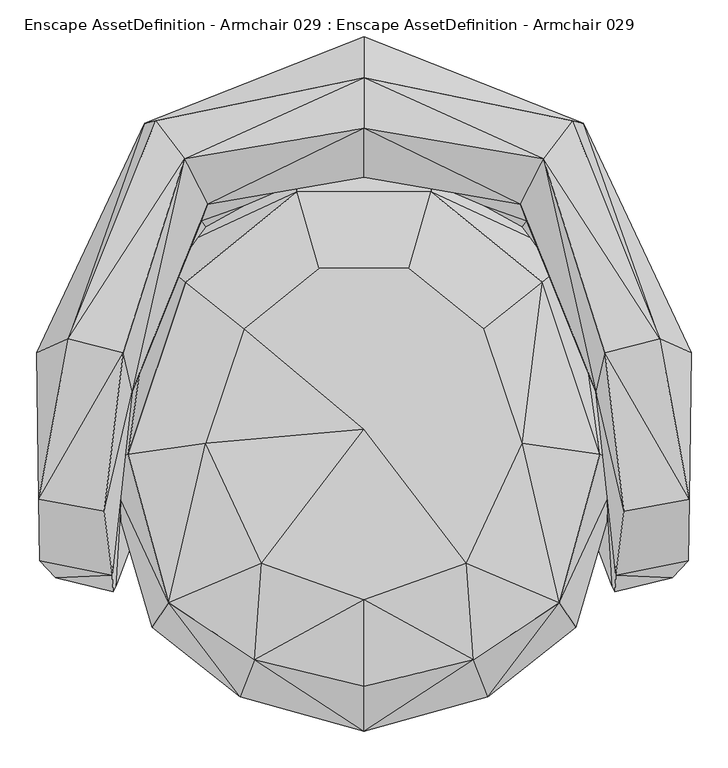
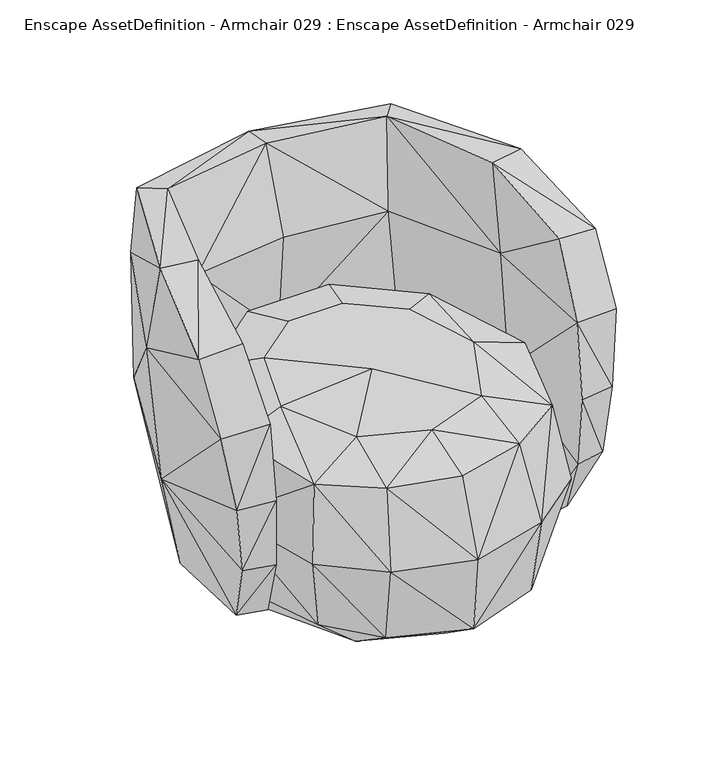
"""IFC4 building model written with IfcOpenShell, lengths in millimetres: geographic element geometry, Enscape AssetDefinition - Armchair 029 : Enscape AssetDefinition - Armchair 029."""

import ifcopenshell
import ifcopenshell.guid

model = None  # the IFC model being written
_history = None  # IfcOwnerHistory: only IFC2X3 demands one
_inside = {}  # id of a spatial element -> (the spatial element, [elements in it])
_under = {}  # id of a project, library or spatial element -> (it, [spatial elements below it])
_declared = {}  # id of a project -> (the project, [libraries it declares])
_typed = {}  # id of a type object -> (the type object, [elements of that type])
_made_of = {}  # id of a material, layer set ... -> (it, [elements and type objects made of it])


def new_model(schema):
    """Start an empty IFC model of exactly this schema.

    Asked for "IFC4X3", IfcOpenShell would pick the latest addendum, in which some entities
    have other attributes; the version numbers below select the first issue.
    IFC2X3 requires an IfcOwnerHistory on every rooted entity: one is made here for all.
    """
    global model, _history
    if schema == "IFC4X3":
        model = ifcopenshell.file(schema_version=(4, 3, 0, 0))
    else:
        model = ifcopenshell.file(schema=schema)
    _inside.clear()
    _under.clear()
    _declared.clear()
    _typed.clear()
    _made_of.clear()
    _history = None
    if model.schema == "IFC2X3":
        org = make("IfcOrganization", Name="unknown")
        user = make(
            "IfcPersonAndOrganization",
            ThePerson=make("IfcPerson", FamilyName="unknown"),
            TheOrganization=org,
        )
        app = make(
            "IfcApplication",
            ApplicationDeveloper=org,
            Version="unknown",
            ApplicationFullName="unknown",
            ApplicationIdentifier="unknown",
        )
        _history = make(
            "IfcOwnerHistory",
            OwningUser=user,
            OwningApplication=app,
            ChangeAction="ADDED",
            CreationDate=0,
        )
    return model


def make(cls, **values):
    """One entity of the class cls with the attributes given. An attribute that is None is left unset."""
    return model.create_entity(
        cls, **{name: value for name, value in values.items() if value is not None}
    )


def rooted(cls, **values):
    """An entity with a GlobalId (a new one), such as an element, a storey or a relation."""
    return make(cls, GlobalId=ifcopenshell.guid.new(), OwnerHistory=_history, **values)


def si_unit(unit_type, name, prefix=None):
    """IfcSIUnit, for example si_unit("LENGTHUNIT", "METRE", prefix="MILLI")."""
    return make("IfcSIUnit", UnitType=unit_type, Prefix=prefix, Name=name)


def assignment(units):
    """IfcUnitAssignment: the units of a project."""
    return None if units is None else make("IfcUnitAssignment", Units=units)


def point(xyz):
    """IfcCartesianPoint."""
    return None if xyz is None else make("IfcCartesianPoint", Coordinates=xyz)


def direction(xyz):
    """IfcDirection."""
    return None if xyz is None else make("IfcDirection", DirectionRatios=xyz)


def frame(location, z_axis=None, x_axis=None):
    """IfcAxis2Placement3D, a coordinate frame: its origin and axes. An axis left out is left unset."""
    return make(
        "IfcAxis2Placement3D",
        Location=point(location),
        Axis=direction(z_axis),
        RefDirection=direction(x_axis),
    )


def origin():
    """The frame at (0, 0, 0) with its axes left unset."""
    return frame((0.0, 0.0, 0.0))


def place(relative_to, where):
    """IfcLocalPlacement: puts the frame where relative to a parent placement (None: the world)."""
    return make(
        "IfcLocalPlacement", PlacementRelTo=relative_to, RelativePlacement=where
    )


def context(
    kind, dimensions, precision=None, world=None, true_north=None, identifier=None
):
    """IfcGeometricRepresentationContext, for example the 3D "Model" context."""
    return make(
        "IfcGeometricRepresentationContext",
        ContextIdentifier=identifier,
        ContextType=kind,
        CoordinateSpaceDimension=dimensions,
        Precision=precision,
        WorldCoordinateSystem=world,
        TrueNorth=true_north,
    )


def project(units=None, contexts=None):
    """IfcProject with its units and contexts."""
    return rooted(
        "IfcProject",
        Name="project",
        RepresentationContexts=contexts,
        UnitsInContext=assignment(units),
    )


def spatial(cls, under=None, at=None, **own):
    """A site, building, storey or space (cls), placed at a placement, below another one or the project."""
    s = rooted(cls, ObjectPlacement=at, **own)
    if under is not None:
        _under.setdefault(under.id(), (under, []))[1].append(s)
    return s


def point_list(points):
    """IfcCartesianPointList2D or 3D."""
    cls = (
        "IfcCartesianPointList2D" if len(points[0]) == 2 else "IfcCartesianPointList3D"
    )
    return make(cls, CoordList=points)


def triangles(points, corners, closed=None, point_numbers=None):
    """IfcTriangulatedFaceSet: each triangle names its three corners, points numbered from 1."""
    return make(
        "IfcTriangulatedFaceSet",
        Coordinates=point_list(points),
        Closed=closed,
        CoordIndex=corners,
        PnIndex=point_numbers,
    )


def shape(context_of_items, identifier, shape_type, items):
    """IfcShapeRepresentation: the items that make up one representation, for example the "Body"."""
    return make(
        "IfcShapeRepresentation",
        ContextOfItems=context_of_items,
        RepresentationIdentifier=identifier,
        RepresentationType=shape_type,
        Items=items,
    )


def source(mapping_origin, context_of_items, identifier, shape_type, items):
    """IfcRepresentationMap: a shape defined once, which mapped items show again and again."""
    return make(
        "IfcRepresentationMap",
        MappingOrigin=mapping_origin,
        MappedRepresentation=shape(context_of_items, identifier, shape_type, items),
    )


def transform(
    local_origin,
    x_axis=None,
    y_axis=None,
    z_axis=None,
    scale=None,
    scale2=None,
    scale3=None,
    uniform=True,
):
    """IfcCartesianTransformationOperator3D, or its non-uniform kind. x_axis, y_axis, z_axis: its Axis1, 2, 3."""
    if uniform:
        return make(
            "IfcCartesianTransformationOperator3D",
            Axis1=direction(x_axis),
            Axis2=direction(y_axis),
            LocalOrigin=point(local_origin),
            Scale=scale,
            Axis3=direction(z_axis),
        )
    return make(
        "IfcCartesianTransformationOperator3DnonUniform",
        Axis1=direction(x_axis),
        Axis2=direction(y_axis),
        LocalOrigin=point(local_origin),
        Scale=scale,
        Axis3=direction(z_axis),
        Scale2=scale2,
        Scale3=scale3,
    )


def mapped(mapping_source, mapping_target):
    """IfcMappedItem: shows the shape of a source again, moved by a transform."""
    return make(
        "IfcMappedItem", MappingSource=mapping_source, MappingTarget=mapping_target
    )


def made_of(thing, what):
    """Note that an element or type object is made of a material, layer set ...; save() writes the relation."""
    if what is not None:
        _made_of.setdefault(what.id(), (what, []))[1].append(thing)
    return thing


def element(
    cls,
    number,
    at=None,
    inside=None,
    cuts=None,
    type_object=None,
    material=None,
    context=None,
    identifier="Body",
    shape_type=None,
    held_by="IfcProductDefinitionShape",
    body=None,
    shapes=None,
    **own,
):
    """One element of the class cls, such as IfcWall. Its Tag is "e" and its number.

    at: its placement. inside: the storey or other place that contains it. cuts: it is an
    opening in that element (IfcRelVoidsElement). A single representation is given by context,
    identifier, shape_type and body (its items); several are given by shapes. held_by: the class
    of the entity that holds the representations. save() writes the other relations.
    """
    e = rooted(cls, Tag="e%d" % number, ObjectPlacement=at, **own)
    if body is not None:
        shapes = [shape(context, identifier, shape_type, body)]
    if shapes is not None:
        e.Representation = make(held_by, Representations=shapes)
    if inside is not None:
        _inside.setdefault(inside.id(), (inside, []))[1].append(e)
    if cuts is not None:
        rooted(
            "IfcRelVoidsElement", RelatingBuildingElement=cuts, RelatedOpeningElement=e
        )
    if type_object is not None:
        _typed.setdefault(type_object.id(), (type_object, []))[1].append(e)
    return made_of(e, material)


def aggregate(whole, parts):
    """IfcRelAggregates: a whole, such as a stair, and the parts it consists of."""
    return rooted("IfcRelAggregates", RelatingObject=whole, RelatedObjects=parts)


def save(model, path):
    """Write the relations noted so far, then the file.

    IfcRelAggregates (storeys below a building ...), IfcRelContainedInSpatialStructure (elements
    in a storey), IfcRelDefinesByType, IfcRelAssociatesMaterial and IfcRelDeclares: one each for
    every whole, place, type object, material and project.
    """
    for whole, parts in _under.values():
        aggregate(whole, parts)
    for where, things in _inside.values():
        rooted(
            "IfcRelContainedInSpatialStructure",
            RelatedElements=things,
            RelatingStructure=where,
        )
    for kind, things in _typed.values():
        rooted("IfcRelDefinesByType", RelatedObjects=things, RelatingType=kind)
    for what, things in _made_of.values():
        rooted("IfcRelAssociatesMaterial", RelatedObjects=things, RelatingMaterial=what)
    for by, libraries in _declared.values():
        rooted("IfcRelDeclares", RelatingContext=by, RelatedDefinitions=libraries)
    model.write(path)


def enscape_assetdefinition_armchair_029_enscape_assetdefinition_e9313fe8(model_context):
    return source(origin(), model_context, "Body", "Tessellation", [
        triangles([(-111.1503921, 255.2187967, 79.2519576), (-103.1659957, 172.1828223, 0.0), (-106.0501765, 280.07075, 259.6799706), (106.0501765, 280.07075, 259.6799706), (103.1659957, 172.1828223, 0.0), (-221.9750955, 69.893172, 0.0), (-275.7942668, 135.5456872, 79.2777009), (-264.5742213, -106.1083761, 0.0), (0.0, -94.1776636, 0.0), (-160.9683905, -305.8113118, 0.0), (-351.6875087, -136.5193832, 261.0577027), (-319.2999507, -135.9127796, 79.1624191), (-252.4521415, -319.5260633, 78.9374601), (0.0, -479.939346, 78.7662224), (-161.2448453, -422.2342927, 78.8177), (-287.2493271, -358.3456415, 257.0532051), (-148.1400765, -401.9912333, 413.8469776), (-167.5660983, -452.0062037, 253.7347667), (-264.8898634, -324.9474621, 417.485491), (-319.511493, -124.0178752, 422.9359941), (-282.5150775, 142.892141, 259.3363506), (-162.1939153, 45.8537918, 453.1892346), (-214.2704967, -108.8403587, 451.2406981), (0.0, -89.8720942, 452.663213), (-138.531715, -271.3980417, 451.605574), (0.0, -437.6087903, 412.3550629), (0.0, -320.7997138, 449.5999188), (138.531715, -271.3980417, 451.605574), (148.1400765, -401.9912333, 413.8469776), (0.0, -498.5024208, 252.1208572), (264.8898634, -324.9474621, 417.485491), (351.6875087, -136.5193832, 261.0577027), (161.2448453, -422.2342927, 78.8177), (167.5660983, -452.0062037, 253.7347667), (287.2493271, -358.3456415, 257.0532051), (160.9683905, -305.8113118, 0.0), (319.2999507, -135.9127796, 79.1624191), (264.5742213, -106.1083761, 0.0), (0.0, -367.6563014, 0.0), (252.4521415, -319.5260633, 78.9374601), (275.7942668, 135.5456872, 79.2777009), (221.9750955, 69.893172, 0.0), (111.1503921, 255.2187967, 79.2519576), (90.6555312, 231.3137333, 424.8420187), (-90.6555312, 231.3137333, 424.8420187), (-241.8689394, 109.0183002, 424.3283146), (60.8108321, 127.9071091, 453.5194107), (-60.8108321, 127.9071091, 453.5194107), (214.2704967, -108.8403587, 453.1858555), (241.8689394, 109.0183002, 424.3283146), (162.1939153, 45.8537918, 453.1892346), (319.511493, -124.0178752, 422.9359941), (282.5150775, 142.892141, 259.3363506), (-351.9225597, -200.9642959, 702.1203701), (-440.8197862, -185.2002872, 686.8319864), (-439.2641035, -267.7718096, 548.5117956), (-431.5650822, -25.5424748, 305.1520861), (-296.771493, 324.3498241, 579.6167284), (-301.7866665, 305.1767212, 297.9914221), (-442.9753595, 13.2066089, 595.3874591), (-341.0404841, -287.5604636, 561.46998), (-339.781404, -309.7050058, 395.0991757), (-417.3254354, -290.7703149, 387.660967), (-400.7936683, -283.581673, 236.7497024), (-335.814931, -302.104525, 239.2399392), (-301.0491207, -210.062287, 65.0224028), (-368.0379278, -203.5765092, 71.669349), (-308.4402938, -12.2541644, 61.5013832), (-270.7074589, -27.7081334, 108.6265908), (-373.351884, 1.1483034, 71.5641456), (-203.716399, 171.4934021, 68.8590237), (0.0, 296.4133389, 70.1237312), (-246.0256805, 225.7177086, 70.7135435), (0.0, 402.5105693, 295.1699192), (246.0256805, 225.7177086, 70.7124262), (0.0, 227.5610373, 74.1528639), (442.9753595, 13.2066089, 595.3874591), (301.7866665, 305.1767212, 297.9914221), (431.5650822, -25.5424748, 305.1520861), (368.0379278, -203.5765092, 71.669349), (373.351884, 1.1483034, 71.5641456), (203.716399, 171.4934021, 68.8590237), (181.471118, 138.5720105, 119.9361476), (308.4402938, -12.2541644, 61.5013832), (301.0491207, -210.062287, 65.0224028), (400.7936683, -283.581673, 236.7497024), (320.9709606, -56.8734725, 323.8495276), (270.7074589, -27.7081334, 108.6265908), (335.814931, -302.104525, 239.2399392), (339.781404, -309.7050058, 395.0991757), (417.3254354, -290.7703149, 387.660967), (314.047546, -39.0669377, 583.4791017), (341.0404841, -287.5604636, 561.46998), (351.9225597, -200.9642959, 702.1203701), (439.2641035, -267.7718096, 548.5117956), (440.8197862, -185.2002872, 686.8319864), (400.3717463, 32.0439312, 755.7246563), (282.013691, 327.2015396, 723.476988), (326.2659136, 13.6878659, 760.3514088), (243.198582, 275.9363912, 738.8347715), (211.7556248, 214.3891305, 564.9160269), (0.0, 385.5489956, 722.7483988), (296.771493, 324.3498241, 579.6167284), (0.0, 440.7884654, 573.4286977), (-243.198582, 275.9363912, 738.8347715), (-282.013691, 327.2015396, 723.476988), (-400.3717463, 32.0428116, 755.7246563), (-211.7556248, 214.3891305, 564.9160269), (-326.2659136, 13.6878659, 760.3514088), (0.0, 269.807641, 325.8462081), (-314.047546, -39.0669377, 583.4791017), (-219.9538163, 191.9860285, 323.0403474), (-320.9709606, -56.8734725, 323.8495276), (0.0, 187.750949, 127.892566), (-181.471118, 138.5720105, 119.9361476), (219.9538163, 191.9860285, 323.0403474), (0.0, 317.4376007, 735.4714594), (0.0, 251.1471521, 555.2863458)], [[101, 118, 110], [117, 118, 101], [92, 101, 116], [110, 116, 101], [83, 116, 110], [83, 114, 76], [110, 114, 83], [76, 114, 115], [115, 114, 110], [113, 69, 115], [110, 112, 115], [115, 112, 113], [111, 113, 112], [112, 108, 111], [108, 112, 110], [110, 118, 108], [108, 118, 117], [105, 109, 111], [111, 108, 105], [107, 109, 105], [117, 105, 108], [105, 106, 107], [107, 106, 58], [102, 106, 105], [105, 117, 102], [102, 104, 58], [58, 106, 102], [103, 104, 102], [102, 98, 103], [100, 101, 92], [102, 117, 100], [100, 98, 102], [101, 100, 117], [92, 99, 100], [97, 98, 100], [100, 99, 97], [103, 98, 97], [97, 77, 103], [96, 97, 99], [96, 77, 97], [99, 94, 96], [92, 94, 99], [77, 96, 95], [95, 96, 94], [79, 77, 95], [95, 91, 79], [91, 95, 93], [94, 93, 95], [94, 92, 93], [93, 90, 91], [86, 91, 90], [86, 79, 91], [90, 89, 86], [116, 87, 92], [93, 92, 87], [87, 90, 93], [87, 89, 90], [87, 116, 83], [83, 88, 87], [85, 89, 87], [87, 88, 85], [80, 86, 89], [89, 85, 80], [79, 86, 80], [84, 88, 83], [88, 84, 85], [80, 85, 84], [76, 82, 83], [83, 82, 84], [81, 84, 82], [84, 81, 80], [80, 81, 79], [78, 79, 81], [78, 103, 77], [77, 79, 78], [82, 75, 81], [81, 75, 78], [72, 75, 82], [82, 76, 72], [74, 78, 75], [75, 72, 74], [103, 78, 74], [74, 104, 103], [58, 104, 74], [74, 59, 58], [74, 72, 73], [73, 59, 74], [115, 71, 76], [72, 76, 71], [71, 73, 72], [70, 73, 71], [59, 73, 70], [70, 57, 59], [71, 68, 70], [115, 69, 68], [68, 71, 115], [69, 66, 68], [66, 69, 113], [67, 70, 68], [68, 66, 67], [57, 70, 67], [67, 66, 65], [113, 65, 66], [65, 64, 67], [67, 64, 57], [64, 65, 62], [113, 62, 65], [62, 63, 64], [64, 63, 57], [63, 62, 61], [113, 111, 61], [61, 62, 113], [54, 61, 111], [111, 109, 54], [61, 56, 63], [56, 61, 54], [57, 63, 56], [59, 57, 60], [60, 58, 59], [58, 60, 107], [56, 60, 57], [60, 56, 55], [54, 55, 56], [55, 54, 109], [109, 107, 55], [55, 107, 60], [52, 32, 53], [53, 50, 52], [49, 52, 50], [50, 51, 49], [51, 24, 49], [46, 22, 48], [24, 48, 22], [47, 51, 50], [24, 51, 47], [47, 48, 24], [45, 48, 47], [48, 45, 46], [21, 46, 45], [45, 3, 21], [50, 44, 47], [47, 44, 45], [44, 50, 53], [3, 45, 44], [53, 4, 44], [44, 4, 3], [43, 4, 53], [53, 41, 43], [42, 5, 43], [43, 41, 42], [9, 5, 42], [42, 38, 9], [38, 42, 41], [37, 41, 53], [53, 32, 37], [41, 37, 38], [40, 37, 32], [36, 39, 9], [38, 36, 9], [36, 38, 37], [37, 40, 36], [14, 39, 36], [36, 33, 14], [40, 33, 36], [33, 40, 35], [32, 35, 40], [35, 34, 33], [14, 33, 34], [34, 30, 14], [34, 35, 31], [31, 52, 49], [31, 35, 32], [32, 52, 31], [49, 28, 31], [49, 24, 28], [29, 31, 28], [31, 29, 34], [30, 34, 29], [29, 26, 30], [27, 26, 29], [29, 28, 27], [27, 28, 24], [17, 26, 27], [30, 26, 17], [24, 25, 27], [27, 25, 17], [23, 22, 46], [23, 25, 24], [22, 23, 24], [46, 20, 23], [20, 46, 21], [25, 19, 17], [19, 25, 23], [23, 20, 19], [18, 17, 19], [14, 30, 18], [17, 18, 30], [18, 15, 14], [19, 16, 18], [15, 18, 16], [19, 20, 11], [11, 16, 19], [21, 11, 20], [16, 13, 15], [13, 16, 11], [14, 15, 10], [10, 39, 14], [39, 10, 9], [10, 15, 13], [11, 12, 13], [12, 11, 21], [10, 13, 12], [8, 9, 10], [12, 8, 10], [21, 7, 12], [8, 12, 7], [8, 6, 9], [7, 6, 8], [9, 6, 2], [2, 5, 9], [1, 43, 5], [5, 2, 1], [1, 3, 4], [4, 43, 1], [21, 3, 1], [1, 7, 21], [6, 7, 1], [1, 2, 6]]),
    ])


if __name__ == "__main__":
    model = new_model("IFC4")
    model_context = context("Model", 3, world=origin())
    ifc_project = project(units=[si_unit("LENGTHUNIT", "METRE", prefix="MILLI")], contexts=[model_context])
    site = spatial("IfcSite", under=ifc_project)
    building = spatial("IfcBuilding", under=site)
    placement = place(None, origin())
    enscape_assetdefinition_armchair_029_enscape_assetdefinition_shape = enscape_assetdefinition_armchair_029_enscape_assetdefinition_e9313fe8(model_context)
    element("IfcGeographicElement", 1, ObjectType="Enscape AssetDefinition - Armchair 029 : Enscape AssetDefinition - Armchair 029", at=placement, inside=building, context=model_context, shape_type="MappedRepresentation", body=[
        mapped(enscape_assetdefinition_armchair_029_enscape_assetdefinition_shape, transform((0.0, 0.0, 0.0), x_axis=(1.0, 0.0, 0.0), y_axis=(0.0, 1.0, 0.0), z_axis=(0.0, 0.0, 1.0))),
    ])
    save(model, "model.ifc")
